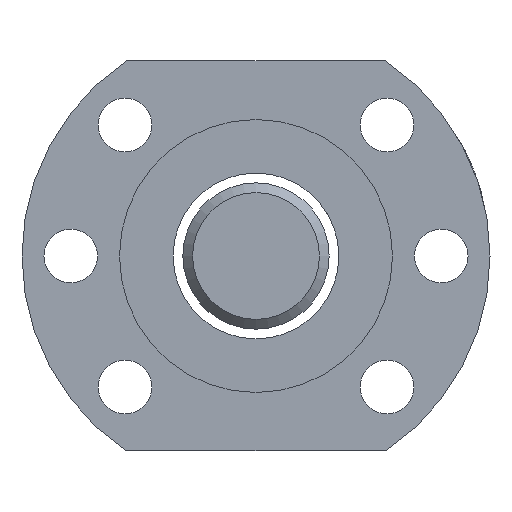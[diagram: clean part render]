
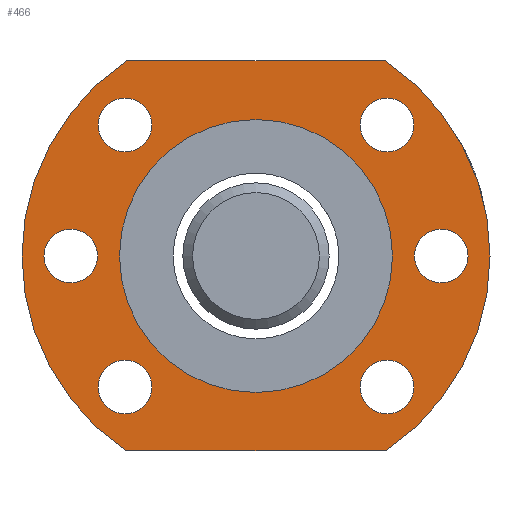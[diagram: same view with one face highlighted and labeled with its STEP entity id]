
A CAD part, left-side view. The second image highlights one B-rep face of the part: STEP entity #466.
In plain terms, the highlighted planar face has unit normal (-1, 0, 0).
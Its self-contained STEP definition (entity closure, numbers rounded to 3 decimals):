
#60=PLANE('',#543);
#75=CIRCLE('',#513,24.);
#87=CIRCLE('',#528,2.75);
#88=CIRCLE('',#530,2.75);
#89=CIRCLE('',#532,2.75);
#90=CIRCLE('',#534,2.75);
#91=CIRCLE('',#536,2.75);
#92=CIRCLE('',#538,2.75);
#93=CIRCLE('',#542,24.);
#94=CIRCLE('',#544,14.);
#151=ORIENTED_EDGE('',*,*,#226,.T.);
#152=ORIENTED_EDGE('',*,*,#228,.T.);
#153=ORIENTED_EDGE('',*,*,#229,.F.);
#154=ORIENTED_EDGE('',*,*,#230,.F.);
#155=ORIENTED_EDGE('',*,*,#231,.F.);
#156=ORIENTED_EDGE('',*,*,#236,.T.);
#157=ORIENTED_EDGE('',*,*,#234,.T.);
#158=ORIENTED_EDGE('',*,*,#208,.T.);
#159=ORIENTED_EDGE('',*,*,#232,.T.);
#160=ORIENTED_EDGE('',*,*,#237,.F.);
#161=ORIENTED_EDGE('',*,*,#227,.T.);
#208=EDGE_CURVE('',#256,#258,#75,.T.);
#226=EDGE_CURVE('',#275,#275,#87,.T.);
#227=EDGE_CURVE('',#276,#276,#88,.T.);
#228=EDGE_CURVE('',#277,#277,#89,.T.);
#229=EDGE_CURVE('',#278,#278,#90,.T.);
#230=EDGE_CURVE('',#279,#279,#91,.T.);
#231=EDGE_CURVE('',#280,#280,#92,.T.);
#232=EDGE_CURVE('',#258,#281,#300,.T.);
#234=EDGE_CURVE('',#282,#256,#302,.T.);
#236=EDGE_CURVE('',#281,#282,#93,.T.);
#237=EDGE_CURVE('',#283,#283,#94,.T.);
#256=VERTEX_POINT('',#712);
#258=VERTEX_POINT('',#716);
#275=VERTEX_POINT('',#773);
#276=VERTEX_POINT('',#776);
#277=VERTEX_POINT('',#779);
#278=VERTEX_POINT('',#782);
#279=VERTEX_POINT('',#785);
#280=VERTEX_POINT('',#788);
#281=VERTEX_POINT('',#791);
#282=VERTEX_POINT('',#795);
#283=VERTEX_POINT('',#801);
#300=LINE('',#790,#308);
#302=LINE('',#794,#310);
#308=VECTOR('',#638,1000.);
#310=VECTOR('',#642,1000.);
#339=EDGE_LOOP('',(#151));
#340=EDGE_LOOP('',(#152));
#341=EDGE_LOOP('',(#153));
#342=EDGE_LOOP('',(#154));
#343=EDGE_LOOP('',(#155));
#344=EDGE_LOOP('',(#156,#157,#158,#159));
#345=EDGE_LOOP('',(#160));
#346=EDGE_LOOP('',(#161));
#402=FACE_BOUND('',#339,.T.);
#403=FACE_BOUND('',#340,.T.);
#404=FACE_BOUND('',#341,.T.);
#405=FACE_BOUND('',#342,.T.);
#406=FACE_BOUND('',#343,.T.);
#407=FACE_BOUND('',#344,.T.);
#408=FACE_BOUND('',#345,.T.);
#409=FACE_BOUND('',#346,.T.);
#466=ADVANCED_FACE('',(#402,#403,#404,#405,#406,#407,#408,#409),#60,.T.);
#513=AXIS2_PLACEMENT_3D('',#717,#582,#583);
#528=AXIS2_PLACEMENT_3D('',#772,#614,#615);
#530=AXIS2_PLACEMENT_3D('',#775,#618,#619);
#532=AXIS2_PLACEMENT_3D('',#778,#622,#623);
#534=AXIS2_PLACEMENT_3D('',#781,#626,#627);
#536=AXIS2_PLACEMENT_3D('',#784,#630,#631);
#538=AXIS2_PLACEMENT_3D('',#787,#634,#635);
#542=AXIS2_PLACEMENT_3D('',#798,#646,#647);
#543=AXIS2_PLACEMENT_3D('',#799,#648,#649);
#544=AXIS2_PLACEMENT_3D('',#800,#650,#651);
#582=DIRECTION('',(-1.,0.,0.));
#583=DIRECTION('',(0.,0.,-1.));
#614=DIRECTION('',(1.,0.,0.));
#615=DIRECTION('',(0.,0.,1.));
#618=DIRECTION('',(1.,0.,0.));
#619=DIRECTION('',(0.,0.,1.));
#622=DIRECTION('',(1.,0.,0.));
#623=DIRECTION('',(0.,0.,1.));
#626=DIRECTION('',(-1.,0.,0.));
#627=DIRECTION('',(0.,0.,1.));
#630=DIRECTION('',(-1.,0.,0.));
#631=DIRECTION('',(0.,0.,1.));
#634=DIRECTION('',(-1.,0.,0.));
#635=DIRECTION('',(0.,0.,1.));
#638=DIRECTION('',(0.,1.,0.));
#642=DIRECTION('',(0.,-1.,0.));
#646=DIRECTION('',(-1.,0.,0.));
#647=DIRECTION('',(0.,0.,-1.));
#648=DIRECTION('',(-1.,0.,0.));
#649=DIRECTION('',(0.,0.,-1.));
#650=DIRECTION('',(-1.,0.,0.));
#651=DIRECTION('',(0.,0.,-1.));
#712=CARTESIAN_POINT('',(0.351,-49.205,-20.));
#716=CARTESIAN_POINT('',(0.351,-49.205,20.));
#717=CARTESIAN_POINT('',(0.351,-35.938,0.));
#772=CARTESIAN_POINT('',(0.351,-49.373,13.435));
#773=CARTESIAN_POINT('',(0.351,-49.373,16.185));
#775=CARTESIAN_POINT('',(0.351,-54.938,0.));
#776=CARTESIAN_POINT('',(0.351,-54.938,2.75));
#778=CARTESIAN_POINT('',(0.351,-49.373,-13.435));
#779=CARTESIAN_POINT('',(0.351,-49.373,-10.685));
#781=CARTESIAN_POINT('',(0.351,-22.503,-13.435));
#782=CARTESIAN_POINT('',(0.351,-22.503,-10.685));
#784=CARTESIAN_POINT('',(0.351,-22.503,13.435));
#785=CARTESIAN_POINT('',(0.351,-22.503,16.185));
#787=CARTESIAN_POINT('',(0.351,-16.938,0.));
#788=CARTESIAN_POINT('',(0.351,-16.938,2.75));
#790=CARTESIAN_POINT('',(0.351,-49.205,20.));
#791=CARTESIAN_POINT('',(0.351,-22.672,20.));
#794=CARTESIAN_POINT('',(0.351,-22.672,-20.));
#795=CARTESIAN_POINT('',(0.351,-22.672,-20.));
#798=CARTESIAN_POINT('',(0.351,-35.938,0.));
#799=CARTESIAN_POINT('',(0.351,-35.938,0.));
#800=CARTESIAN_POINT('',(0.351,-35.938,0.));
#801=CARTESIAN_POINT('',(0.351,-35.938,-14.));
